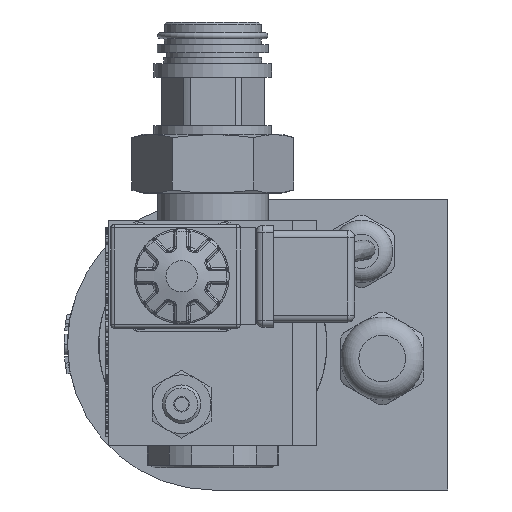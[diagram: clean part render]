
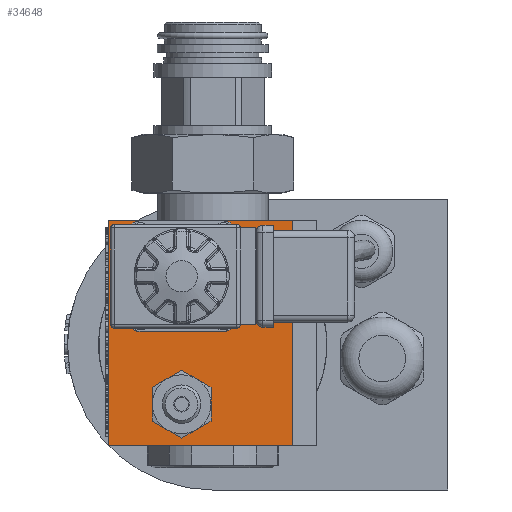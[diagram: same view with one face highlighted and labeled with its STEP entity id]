
A CAD part, left-side view. The second image highlights one B-rep face of the part: STEP entity #34648.
In plain terms, the highlighted planar face has unit normal (-1, 0, 0).
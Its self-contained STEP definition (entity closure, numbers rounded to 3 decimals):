
#701=FACE_BOUND('',#11921,.T.);
#702=FACE_BOUND('',#11922,.T.);
#3564=LINE('',#57984,#6472);
#3566=LINE('',#57998,#6474);
#3568=LINE('',#58010,#6476);
#3570=LINE('',#58022,#6478);
#3584=LINE('',#59293,#6492);
#3585=LINE('',#59295,#6493);
#3586=LINE('',#59297,#6494);
#3587=LINE('',#59298,#6495);
#6472=VECTOR('',#41019,10.);
#6474=VECTOR('',#41035,10.);
#6476=VECTOR('',#41049,10.);
#6478=VECTOR('',#41063,10.);
#6492=VECTOR('',#41349,10.);
#6493=VECTOR('',#41350,10.);
#6494=VECTOR('',#41351,10.);
#6495=VECTOR('',#41352,10.);
#9898=FACE_OUTER_BOUND('',#11920,.T.);
#11920=EDGE_LOOP('',(#25768,#25769,#25770,#25771));
#11921=EDGE_LOOP('',(#25772,#25773,#25774,#25775,#25776,#25777));
#11922=EDGE_LOOP('',(#25778,#25779,#25780,#25781,#25782,#25783,#25784,#25785));
#14073=CIRCLE('',#37149,3.975);
#14077=CIRCLE('',#37155,3.975);
#14081=CIRCLE('',#37161,3.975);
#14085=CIRCLE('',#37167,3.975);
#14160=CIRCLE('',#37301,8.5);
#14161=CIRCLE('',#37302,8.5);
#14162=CIRCLE('',#37303,8.5);
#14163=CIRCLE('',#37304,8.5);
#14164=CIRCLE('',#37305,8.5);
#14165=CIRCLE('',#37306,8.5);
#15132=VERTEX_POINT('',#57982);
#15133=VERTEX_POINT('',#57983);
#15136=VERTEX_POINT('',#57991);
#15138=VERTEX_POINT('',#57997);
#15140=VERTEX_POINT('',#58003);
#15142=VERTEX_POINT('',#58009);
#15144=VERTEX_POINT('',#58015);
#15146=VERTEX_POINT('',#58021);
#15211=VERTEX_POINT('',#59291);
#15212=VERTEX_POINT('',#59292);
#15213=VERTEX_POINT('',#59294);
#15214=VERTEX_POINT('',#59296);
#15215=VERTEX_POINT('',#59299);
#15216=VERTEX_POINT('',#59300);
#15217=VERTEX_POINT('',#59302);
#15218=VERTEX_POINT('',#59304);
#15219=VERTEX_POINT('',#59306);
#15220=VERTEX_POINT('',#59308);
#18977=EDGE_CURVE('',#15132,#15133,#3564,.T.);
#18981=EDGE_CURVE('',#15133,#15136,#14073,.T.);
#18984=EDGE_CURVE('',#15136,#15138,#3566,.T.);
#18987=EDGE_CURVE('',#15138,#15140,#14077,.T.);
#18990=EDGE_CURVE('',#15140,#15142,#3568,.T.);
#18993=EDGE_CURVE('',#15142,#15144,#14081,.T.);
#18996=EDGE_CURVE('',#15144,#15146,#3570,.T.);
#18999=EDGE_CURVE('',#15146,#15132,#14085,.T.);
#19132=EDGE_CURVE('',#15211,#15212,#3584,.T.);
#19133=EDGE_CURVE('',#15211,#15213,#3585,.T.);
#19134=EDGE_CURVE('',#15213,#15214,#3586,.T.);
#19135=EDGE_CURVE('',#15214,#15212,#3587,.T.);
#19136=EDGE_CURVE('',#15215,#15216,#14160,.T.);
#19137=EDGE_CURVE('',#15216,#15217,#14161,.T.);
#19138=EDGE_CURVE('',#15217,#15218,#14162,.T.);
#19139=EDGE_CURVE('',#15218,#15219,#14163,.T.);
#19140=EDGE_CURVE('',#15219,#15220,#14164,.T.);
#19141=EDGE_CURVE('',#15220,#15215,#14165,.T.);
#25768=ORIENTED_EDGE('',*,*,#19132,.F.);
#25769=ORIENTED_EDGE('',*,*,#19133,.T.);
#25770=ORIENTED_EDGE('',*,*,#19134,.T.);
#25771=ORIENTED_EDGE('',*,*,#19135,.T.);
#25772=ORIENTED_EDGE('',*,*,#19136,.T.);
#25773=ORIENTED_EDGE('',*,*,#19137,.T.);
#25774=ORIENTED_EDGE('',*,*,#19138,.T.);
#25775=ORIENTED_EDGE('',*,*,#19139,.T.);
#25776=ORIENTED_EDGE('',*,*,#19140,.T.);
#25777=ORIENTED_EDGE('',*,*,#19141,.T.);
#25778=ORIENTED_EDGE('',*,*,#18977,.T.);
#25779=ORIENTED_EDGE('',*,*,#18981,.T.);
#25780=ORIENTED_EDGE('',*,*,#18984,.T.);
#25781=ORIENTED_EDGE('',*,*,#18987,.T.);
#25782=ORIENTED_EDGE('',*,*,#18990,.T.);
#25783=ORIENTED_EDGE('',*,*,#18993,.T.);
#25784=ORIENTED_EDGE('',*,*,#18996,.T.);
#25785=ORIENTED_EDGE('',*,*,#18999,.T.);
#33154=PLANE('',#37300);
#34648=ADVANCED_FACE('',(#9898,#701,#702),#33154,.T.);
#37149=AXIS2_PLACEMENT_3D('',#57992,#41027,#41028);
#37155=AXIS2_PLACEMENT_3D('',#58004,#41041,#41042);
#37161=AXIS2_PLACEMENT_3D('',#58016,#41055,#41056);
#37167=AXIS2_PLACEMENT_3D('',#58027,#41069,#41070);
#37300=AXIS2_PLACEMENT_3D('',#59290,#41347,#41348);
#37301=AXIS2_PLACEMENT_3D('',#59301,#41353,#41354);
#37302=AXIS2_PLACEMENT_3D('',#59303,#41355,#41356);
#37303=AXIS2_PLACEMENT_3D('',#59305,#41357,#41358);
#37304=AXIS2_PLACEMENT_3D('',#59307,#41359,#41360);
#37305=AXIS2_PLACEMENT_3D('',#59309,#41361,#41362);
#37306=AXIS2_PLACEMENT_3D('',#59310,#41363,#41364);
#41019=DIRECTION('',(0.,0.,1.));
#41027=DIRECTION('center_axis',(1.,0.,0.));
#41028=DIRECTION('ref_axis',(0.,0.,-1.));
#41035=DIRECTION('',(0.,-1.,0.));
#41041=DIRECTION('center_axis',(1.,0.,0.));
#41042=DIRECTION('ref_axis',(0.,0.,-1.));
#41049=DIRECTION('',(0.,0.,-1.));
#41055=DIRECTION('center_axis',(1.,0.,0.));
#41056=DIRECTION('ref_axis',(0.,0.,-1.));
#41063=DIRECTION('',(0.,1.,0.));
#41069=DIRECTION('center_axis',(1.,0.,0.));
#41070=DIRECTION('ref_axis',(0.,0.,-1.));
#41347=DIRECTION('center_axis',(-1.,0.,0.));
#41348=DIRECTION('ref_axis',(0.,0.,1.));
#41349=DIRECTION('',(0.,0.,-1.));
#41350=DIRECTION('',(0.,1.,0.));
#41351=DIRECTION('',(0.,0.,-1.));
#41352=DIRECTION('',(0.,-1.,0.));
#41353=DIRECTION('center_axis',(1.,0.,0.));
#41354=DIRECTION('ref_axis',(0.,0.,
1.));
#41355=DIRECTION('center_axis',(1.,0.,0.));
#41356=DIRECTION('ref_axis',(0.,0.,
1.));
#41357=DIRECTION('center_axis',(1.,0.,0.));
#41358=DIRECTION('ref_axis',(0.,0.,
1.));
#41359=DIRECTION('center_axis',(1.,0.,0.));
#41360=DIRECTION('ref_axis',(0.,0.,
1.));
#41361=DIRECTION('center_axis',(1.,0.,0.));
#41362=DIRECTION('ref_axis',(0.,0.,
1.));
#41363=DIRECTION('center_axis',(1.,0.,0.));
#41364=DIRECTION('ref_axis',(0.,0.,
1.));
#57982=CARTESIAN_POINT('',(-28.,54.475,37.));
#57983=CARTESIAN_POINT('',(-28.,54.475,61.));
#57984=CARTESIAN_POINT('',(-28.,54.475,36.52));
#57991=CARTESIAN_POINT('',(-28.,50.5,64.975));
#57992=CARTESIAN_POINT('Origin',(-28.,50.5,61.));
#57997=CARTESIAN_POINT('',(-28.,26.5,64.975));
#57998=CARTESIAN_POINT('',(-28.,50.98,64.975));
#58003=CARTESIAN_POINT('',(-28.,22.525,61.));
#58004=CARTESIAN_POINT('Origin',(-28.,26.5,61.));
#58009=CARTESIAN_POINT('',(-28.,22.525,37.));
#58010=CARTESIAN_POINT('',(-28.,22.525,61.48));
#58015=CARTESIAN_POINT('',(-28.,26.5,33.025));
#58016=CARTESIAN_POINT('Origin',(-28.,26.5,37.));
#58021=CARTESIAN_POINT('',(-28.,50.5,33.025));
#58022=CARTESIAN_POINT('',(-28.,26.02,33.025));
#58027=CARTESIAN_POINT('Origin',(-28.,50.5,37.));
#59290=CARTESIAN_POINT('Origin',(-28.,29.5,32.5));
#59291=CARTESIAN_POINT('',(-28.,6.5,65.));
#59292=CARTESIAN_POINT('',(-28.,6.5,0.));
#59293=CARTESIAN_POINT('',(-28.,6.5,32.5));
#59294=CARTESIAN_POINT('',(-28.,59.5,65.));
#59295=CARTESIAN_POINT('',(-28.,-0.5,65.));
#59296=CARTESIAN_POINT('',(-28.,59.5,0.));
#59297=CARTESIAN_POINT('',(-28.,59.5,65.));
#59298=CARTESIAN_POINT('',(-28.,59.5,0.));
#59299=CARTESIAN_POINT('',(-28.,42.75,4.639));
#59300=CARTESIAN_POINT('',(-28.,47.,12.));
#59301=CARTESIAN_POINT('Origin',(-28.,38.5,12.));
#59302=CARTESIAN_POINT('',(-28.,42.75,19.361));
#59303=CARTESIAN_POINT('Origin',(-28.,38.5,12.));
#59304=CARTESIAN_POINT('',(-28.,34.25,19.361));
#59305=CARTESIAN_POINT('Origin',(-28.,38.5,12.));
#59306=CARTESIAN_POINT('',(-28.,30.,12.));
#59307=CARTESIAN_POINT('Origin',(-28.,38.5,12.));
#59308=CARTESIAN_POINT('',(-28.,34.25,4.639));
#59309=CARTESIAN_POINT('Origin',(-28.,38.5,12.));
#59310=CARTESIAN_POINT('Origin',(-28.,38.5,12.));
